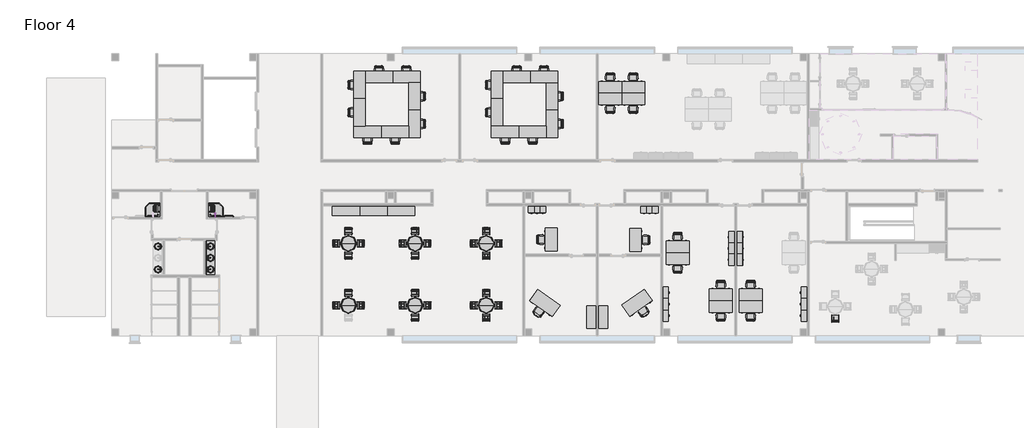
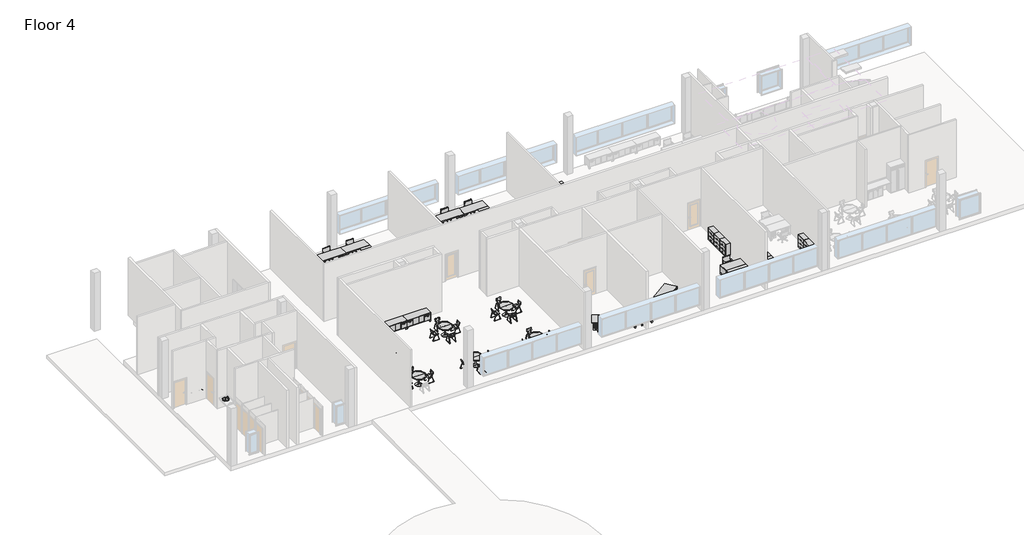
# One storey, part 5 of 6: 114 furniture elements, 13 flow terminals.
"""IFC4 building model written with IfcOpenShell, lengths in millimetres."""

from ifc_helpers import new_model, si_unit, origin, place, context, project, spatial, transform, mapped, element, save
from components import grab_rail_horizontal_grab_bar_horizontal_3488bc9b, grab_rail_horizontal_grab_bar_horizontal_f73a8c0c, shower_head_shower_head_3f4786c7, shower_seat_e35f25db, shower_seat_bb0cd458, shower_tray_2_floor_shower_tray_997da0d4, shower_tray_2_floor_shower_tray_7a1f724c, sink_vanity_round_basin_6ecf7a68, furniture_552c1472, furniture_48aa8ab9, furniture_4ebe9c9a, furniture_5292397e, chair_executive_chair_executive_8d69e98c, chair_executive_chair_executive_a5be4872, chair_stacking_chair_stacking_76f41a28, chair_task_arms_chair_task_arms_fa5a08ef, chair_task_arms_chair_task_arms_3c69ee15, furniture_0f0bb7e9, furniture_a9e97cbc, furniture_d4af3f8d, furniture_f1eb905c, furniture_e30ff25b, furniture_33f25304, furniture_65204735, plumbing_fixtures_counter_top_w_sinks_2400x600x850mm_820859b4, furniture_a5b052b6, furniture_77f0a01d

model = new_model("IFC4")

# Units and contexts
model_context = context("Model", 3, world=origin())
ifc_project = project(units=[si_unit("LENGTHUNIT", "METRE", prefix="MILLI")], contexts=[model_context])

# Site, building, storey
site = spatial("IfcSite", under=ifc_project)
building = spatial("IfcBuilding", under=site)
storey = spatial("IfcBuildingStorey", under=building, Name="Floor 4", Elevation=14935.2)

# Flow terminals
placement = place(None, origin())
grab_rail_horizontal_grab_bar_horizontal_shape = grab_rail_horizontal_grab_bar_horizontal_3488bc9b(model_context)
element("IfcFlowTerminal", 1, ObjectType="Grab Rail - Horizontal : Grab Bar Horizontal", at=placement, inside=storey, context=model_context, shape_type="MappedRepresentation", body=[
    mapped(grab_rail_horizontal_grab_bar_horizontal_shape, transform((3129.9735359, 46520.961889, 14935.2), x_axis=(-1.0, 0.0, 0.0), y_axis=(0.0, -1.0, 0.0), z_axis=(0.0, 0.0, 1.0))),
])
element("IfcFlowTerminal", 2, ObjectType="Grab Rail - Horizontal : Grab Bar Horizontal", at=placement, inside=storey, context=model_context, shape_type="MappedRepresentation", body=[
    mapped(grab_rail_horizontal_grab_bar_horizontal_shape, transform((3939.9735359, 46520.961889, 14935.2), x_axis=(-1.0, 0.0, 0.0), y_axis=(0.0, -1.0, 0.0), z_axis=(0.0, 0.0, 1.0))),
])
grab_rail_horizontal_grab_bar_horizontal_2_shape = grab_rail_horizontal_grab_bar_horizontal_f73a8c0c(model_context)
element("IfcFlowTerminal", 3, ObjectType="Grab Rail - Horizontal : Grab Bar Horizontal", at=placement, inside=storey, context=model_context, shape_type="MappedRepresentation", body=[
    mapped(grab_rail_horizontal_grab_bar_horizontal_2_shape, transform((543.5648689, 46520.961889, 14935.2), x_axis=(1.0, 0.0, 0.0), y_axis=(0.0, 1.0, 0.0), z_axis=(0.0, 0.0, 1.0))),
])
shower_head_shower_head_shape = shower_head_shower_head_3f4786c7(model_context)
element("IfcFlowTerminal", 4, ObjectType="Shower Head : Shower Head", at=placement, inside=storey, context=model_context, shape_type="MappedRepresentation", body=[
    mapped(shower_head_shower_head_shape, transform((3900.7692024, 46520.961889, 14935.2), x_axis=(-1.0, 0.0, 0.0), y_axis=(0.0, -1.0, 0.0), z_axis=(0.0, 0.0, 1.0))),
])
shower_seat_shape = shower_seat_e35f25db(model_context)
element("IfcFlowTerminal", 5, ObjectType="Shower - Disabled  Seat : Shower Seat", at=placement, inside=storey, context=model_context, shape_type="MappedRepresentation", body=[
    mapped(shower_seat_shape, transform((242.9192024, 47086.6956616, 14935.2), x_axis=(0.0, 1.0, 0.0), y_axis=(-1.0, 0.0, 0.0), z_axis=(0.0, 0.0, 1.0))),
])
shower_seat_2_shape = shower_seat_bb0cd458(model_context)
element("IfcFlowTerminal", 6, ObjectType="Shower - Disabled  Seat : Shower Seat", at=placement, inside=storey, context=model_context, shape_type="MappedRepresentation", body=[
    mapped(shower_seat_2_shape, transform((3430.6192024, 47086.6956616, 14935.2), x_axis=(0.0, 1.0, 0.0), y_axis=(-1.0, 0.0, 0.0), z_axis=(0.0, 0.0, 1.0))),
])
shower_tray_2_floor_shower_tray_shape = shower_tray_2_floor_shower_tray_997da0d4(model_context)
element("IfcFlowTerminal", 7, ObjectType="Shower Tray (2) : Floor Shower Tray", at=placement, inside=storey, context=model_context, shape_type="MappedRepresentation", body=[
    mapped(shower_tray_2_floor_shower_tray_shape, transform((3430.6192024, 46520.961889, 14935.2), x_axis=(0.0, -1.0, 0.0), y_axis=(1.0, 0.0, 0.0), z_axis=(0.0, 0.0, 1.0))),
])
shower_tray_2_floor_shower_tray_2_shape = shower_tray_2_floor_shower_tray_7a1f724c(model_context)
element("IfcFlowTerminal", 8, ObjectType="Shower Tray (2) : Floor Shower Tray", at=placement, inside=storey, context=model_context, shape_type="MappedRepresentation", body=[
    mapped(shower_tray_2_floor_shower_tray_2_shape, transform((242.9192024, 46520.961889, 14935.2), x_axis=(0.0, -1.0, 0.0), y_axis=(1.0, 0.0, 0.0), z_axis=(0.0, 0.0, 1.0))),
])
sink_vanity_round_basin_shape = sink_vanity_round_basin_6ecf7a68(model_context)
element("IfcFlowTerminal", 9, ObjectType="Sink - Vanity - Round : Basin", at=placement, inside=storey, context=model_context, shape_type="MappedRepresentation", body=[
    mapped(sink_vanity_round_basin_shape, transform((10.1514839, 44660.1636296, 15011.4), x_axis=(0.0, -1.0, 0.0), y_axis=(1.0, 0.0, 0.0), z_axis=(0.0, 0.0, 1.0))),
])
element("IfcFlowTerminal", 10, ObjectType="Sink - Vanity - Round : Basin", at=placement, inside=storey, context=model_context, shape_type="MappedRepresentation", body=[
    mapped(sink_vanity_round_basin_shape, transform((10.1514839, 43136.1636296, 15010.6), x_axis=(0.0, -1.0, 0.0), y_axis=(1.0, 0.0, 0.0), z_axis=(0.0, 0.0, 1.0))),
])
element("IfcFlowTerminal", 11, ObjectType="Sink - Vanity - Round : Basin", at=placement, inside=storey, context=model_context, shape_type="MappedRepresentation", body=[
    mapped(sink_vanity_round_basin_shape, transform((3663.3869209, 43704.8601484, 15011.0), x_axis=(0.0, 1.0, 0.0), y_axis=(-1.0, 0.0, 0.0), z_axis=(0.0, 0.0, 1.0))),
])
element("IfcFlowTerminal", 12, ObjectType="Sink - Vanity - Round : Basin", at=placement, inside=storey, context=model_context, shape_type="MappedRepresentation", body=[
    mapped(sink_vanity_round_basin_shape, transform((3663.3869209, 42942.8601484, 15011.4), x_axis=(0.0, 1.0, 0.0), y_axis=(-1.0, 0.0, 0.0), z_axis=(0.0, 0.0, 1.0))),
])
element("IfcFlowTerminal", 13, ObjectType="Sink - Vanity - Round : Basin", at=placement, inside=storey, context=model_context, shape_type="MappedRepresentation", body=[
    mapped(sink_vanity_round_basin_shape, transform((3663.3869209, 44466.8601484, 15010.6), x_axis=(0.0, 1.0, 0.0), y_axis=(-1.0, 0.0, 0.0), z_axis=(0.0, 0.0, 1.0))),
])

# Furniture
furniture_shape = furniture_552c1472(model_context)
element("IfcFurniture", 14, ObjectType="Cabinet-File 3 Drawer : 15\" x 18\"", at=placement, inside=storey, context=model_context, shape_type="MappedRepresentation", body=[
    mapped(furniture_shape, transform((25015.1656494, 47175.7961891, 14935.2), x_axis=(1.0, 0.0, 0.0), y_axis=(0.0, 1.0, 0.0), z_axis=(0.0, 0.0, 1.0))),
])
element("IfcFurniture", 15, ObjectType="Cabinet-File 3 Drawer : 15\" x 18\"", at=placement, inside=storey, context=model_context, shape_type="MappedRepresentation", body=[
    mapped(furniture_shape, transform((25396.1656494, 47175.7961891, 14935.2), x_axis=(1.0, 0.0, 0.0), y_axis=(0.0, 1.0, 0.0), z_axis=(0.0, 0.0, 1.0))),
])
element("IfcFurniture", 16, ObjectType="Cabinet-File 3 Drawer : 15\" x 18\"", at=placement, inside=storey, context=model_context, shape_type="MappedRepresentation", body=[
    mapped(furniture_shape, transform((25777.1656494, 47175.7961891, 14935.2), x_axis=(1.0, 0.0, 0.0), y_axis=(0.0, 1.0, 0.0), z_axis=(0.0, 0.0, 1.0))),
])
furniture_2_shape = furniture_48aa8ab9(model_context)
element("IfcFurniture", 17, ObjectType="Cabinet-File 3 Drawer : 15\" x 18\"", at=placement, inside=storey, context=model_context, shape_type="MappedRepresentation", body=[
    mapped(furniture_2_shape, transform((32994.0745255, 47158.4749357, 14935.2), x_axis=(-1.0, 0.0, 0.0), y_axis=(0.0, -1.0, 0.0), z_axis=(0.0, 0.0, 1.0))),
])
element("IfcFurniture", 18, ObjectType="Cabinet-File 3 Drawer : 15\" x 18\"", at=placement, inside=storey, context=model_context, shape_type="MappedRepresentation", body=[
    mapped(furniture_2_shape, transform((32613.0745255, 47158.4749357, 14935.2), x_axis=(-1.0, 0.0, 0.0), y_axis=(0.0, -1.0, 0.0), z_axis=(0.0, 0.0, 1.0))),
])
element("IfcFurniture", 19, ObjectType="Cabinet-File 3 Drawer : 15\" x 18\"", at=placement, inside=storey, context=model_context, shape_type="MappedRepresentation", body=[
    mapped(furniture_2_shape, transform((32232.0745255, 47158.4749357, 14935.2), x_axis=(-1.0, 0.0, 0.0), y_axis=(0.0, -1.0, 0.0), z_axis=(0.0, 0.0, 1.0))),
])
furniture_3_shape = furniture_4ebe9c9a(model_context)
element("IfcFurniture", 20, ObjectType="Cabinet-File 3 Drawer : 30\" x 15\" Lat.", at=placement, inside=storey, context=model_context, shape_type="MappedRepresentation", body=[
    mapped(furniture_3_shape, transform((33660.5349022, 41618.008336, 14935.2), x_axis=(0.0, 1.0, 0.0), y_axis=(-1.0, 0.0, 0.0), z_axis=(0.0, 0.0, 1.0))),
])
element("IfcFurniture", 21, ObjectType="Cabinet-File 3 Drawer : 30\" x 15\" Lat.", at=placement, inside=storey, context=model_context, shape_type="MappedRepresentation", body=[
    mapped(furniture_3_shape, transform((33660.5349022, 40856.008336, 14935.2), x_axis=(0.0, 1.0, 0.0), y_axis=(-1.0, 0.0, 0.0), z_axis=(0.0, 0.0, 1.0))),
])
element("IfcFurniture", 22, ObjectType="Cabinet-File 3 Drawer : 30\" x 15\" Lat.", at=placement, inside=storey, context=model_context, shape_type="MappedRepresentation", body=[
    mapped(furniture_3_shape, transform((33660.5349022, 40094.008336, 14935.2), x_axis=(0.0, 1.0, 0.0), y_axis=(-1.0, 0.0, 0.0), z_axis=(0.0, 0.0, 1.0))),
])
element("IfcFurniture", 23, ObjectType="Cabinet-File 3 Drawer : 30\" x 15\" Lat.", at=placement, inside=storey, context=model_context, shape_type="MappedRepresentation", body=[
    mapped(furniture_3_shape, transform((38345.3535025, 43540.265442, 14935.2), x_axis=(0.0, -1.0, 0.0), y_axis=(1.0, 0.0, 0.0), z_axis=(0.0, 0.0, 1.0))),
])
element("IfcFurniture", 24, ObjectType="Cabinet-File 3 Drawer : 30\" x 15\" Lat.", at=placement, inside=storey, context=model_context, shape_type="MappedRepresentation", body=[
    mapped(furniture_3_shape, transform((38345.3535025, 44302.265442, 14935.2), x_axis=(0.0, -1.0, 0.0), y_axis=(1.0, 0.0, 0.0), z_axis=(0.0, 0.0, 1.0))),
])
element("IfcFurniture", 25, ObjectType="Cabinet-File 3 Drawer : 30\" x 15\" Lat.", at=placement, inside=storey, context=model_context, shape_type="MappedRepresentation", body=[
    mapped(furniture_3_shape, transform((38345.3535025, 45064.265442, 14935.2), x_axis=(0.0, -1.0, 0.0), y_axis=(1.0, 0.0, 0.0), z_axis=(0.0, 0.0, 1.0))),
])
furniture_4_shape = furniture_5292397e(model_context)
element("IfcFurniture", 26, ObjectType="Cabinet-File 3 Drawer : 30\" x 15\" Lat.", at=placement, inside=storey, context=model_context, shape_type="MappedRepresentation", body=[
    mapped(furniture_4_shape, transform((43139.6035025, 41618.008336, 14935.2), x_axis=(0.0, 1.0, 0.0), y_axis=(-1.0, 0.0, 0.0), z_axis=(0.0, 0.0, 1.0))),
])
element("IfcFurniture", 27, ObjectType="Cabinet-File 3 Drawer : 30\" x 15\" Lat.", at=placement, inside=storey, context=model_context, shape_type="MappedRepresentation", body=[
    mapped(furniture_4_shape, transform((43139.6035025, 40856.008336, 14935.2), x_axis=(0.0, 1.0, 0.0), y_axis=(-1.0, 0.0, 0.0), z_axis=(0.0, 0.0, 1.0))),
])
element("IfcFurniture", 28, ObjectType="Cabinet-File 3 Drawer : 30\" x 15\" Lat.", at=placement, inside=storey, context=model_context, shape_type="MappedRepresentation", body=[
    mapped(furniture_4_shape, transform((43139.6035025, 40094.008336, 14935.2), x_axis=(0.0, 1.0, 0.0), y_axis=(-1.0, 0.0, 0.0), z_axis=(0.0, 0.0, 1.0))),
])
element("IfcFurniture", 29, ObjectType="Cabinet-File 3 Drawer : 30\" x 15\" Lat.", at=placement, inside=storey, context=model_context, shape_type="MappedRepresentation", body=[
    mapped(furniture_4_shape, transform((38581.7849022, 43540.265442, 14935.2), x_axis=(0.0, -1.0, 0.0), y_axis=(1.0, 0.0, 0.0), z_axis=(0.0, 0.0, 1.0))),
])
element("IfcFurniture", 30, ObjectType="Cabinet-File 3 Drawer : 30\" x 15\" Lat.", at=placement, inside=storey, context=model_context, shape_type="MappedRepresentation", body=[
    mapped(furniture_4_shape, transform((38581.7849022, 44302.265442, 14935.2), x_axis=(0.0, -1.0, 0.0), y_axis=(1.0, 0.0, 0.0), z_axis=(0.0, 0.0, 1.0))),
])
element("IfcFurniture", 31, ObjectType="Cabinet-File 3 Drawer : 30\" x 15\" Lat.", at=placement, inside=storey, context=model_context, shape_type="MappedRepresentation", body=[
    mapped(furniture_4_shape, transform((38581.7849022, 45064.265442, 14935.2), x_axis=(0.0, -1.0, 0.0), y_axis=(1.0, 0.0, 0.0), z_axis=(0.0, 0.0, 1.0))),
])
chair_executive_chair_executive_shape = chair_executive_chair_executive_8d69e98c(model_context)
element("IfcFurniture", 32, ObjectType="Chair-Executive : Chair-Executive", at=placement, inside=storey, context=model_context, shape_type="MappedRepresentation", body=[
    mapped(chair_executive_chair_executive_shape, transform((25274.595015, 40313.6122918, 14935.2), x_axis=(0.819152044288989, -0.57357643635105, 0.0), y_axis=(0.57357643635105, 0.819152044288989, 0.0), z_axis=(0.0, 0.0, 1.0))),
])
chair_executive_chair_executive_2_shape = chair_executive_chair_executive_a5be4872(model_context)
element("IfcFurniture", 33, ObjectType="Chair-Executive : Chair-Executive", at=placement, inside=storey, context=model_context, shape_type="MappedRepresentation", body=[
    mapped(chair_executive_chair_executive_2_shape, transform((32438.2785136, 40325.0659707, 14935.2), x_axis=(-0.819152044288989, -0.57357643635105, 0.0), y_axis=(0.57357643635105, -0.819152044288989, 0.0), z_axis=(0.0, 0.0, 1.0))),
])
chair_stacking_chair_stacking_shape = chair_stacking_chair_stacking_76f41a28(model_context)
element("IfcFurniture", 34, ObjectType="Chair-Stacking : Chair-Stacking", at=placement, inside=storey, context=model_context, shape_type="MappedRepresentation", body=[
    mapped(chair_stacking_chair_stacking_shape, transform((45252.5467451, 39653.9804254, 14935.2), x_axis=(1.0, 0.0, 0.0), y_axis=(0.0, 1.0, 0.0), z_axis=(0.0, 0.0, 1.0))),
])
element("IfcFurniture", 35, ObjectType="Chair-Stacking : Chair-Stacking", at=placement, inside=storey, context=model_context, shape_type="MappedRepresentation", body=[
    mapped(chair_stacking_chair_stacking_shape, transform((22069.1183827, 43844.9604655, 14935.2), x_axis=(1.0, 0.0, 0.0), y_axis=(0.0, 1.0, 0.0), z_axis=(0.0, 0.0, 1.0))),
])
element("IfcFurniture", 36, ObjectType="Chair-Stacking : Chair-Stacking", at=placement, inside=storey, context=model_context, shape_type="MappedRepresentation", body=[
    mapped(chair_stacking_chair_stacking_shape, transform((22811.8206259, 44945.7610693, 14935.2), x_axis=(0.0, 1.0, 0.0), y_axis=(-1.0, 0.0, 0.0), z_axis=(0.0, 0.0, 1.0))),
])
element("IfcFurniture", 37, ObjectType="Chair-Stacking : Chair-Stacking", at=placement, inside=storey, context=model_context, shape_type="MappedRepresentation", body=[
    mapped(chair_stacking_chair_stacking_shape, transform((21711.020022, 45688.4633126, 14935.2), x_axis=(-1.0, 0.0, 0.0), y_axis=(0.0, -1.0, 0.0), z_axis=(0.0, 0.0, 1.0))),
])
element("IfcFurniture", 38, ObjectType="Chair-Stacking : Chair-Stacking", at=placement, inside=storey, context=model_context, shape_type="MappedRepresentation", body=[
    mapped(chair_stacking_chair_stacking_shape, transform((20968.3177788, 44587.6627087, 14935.2), x_axis=(0.0, -1.0, 0.0), y_axis=(1.0, 0.0, 0.0), z_axis=(0.0, 0.0, 1.0))),
])
element("IfcFurniture", 39, ObjectType="Chair-Stacking : Chair-Stacking", at=placement, inside=storey, context=model_context, shape_type="MappedRepresentation", body=[
    mapped(chair_stacking_chair_stacking_shape, transform((22069.1183827, 39730.1604655, 14935.2), x_axis=(1.0, 0.0, 0.0), y_axis=(0.0, 1.0, 0.0), z_axis=(0.0, 0.0, 1.0))),
])
element("IfcFurniture", 40, ObjectType="Chair-Stacking : Chair-Stacking", at=placement, inside=storey, context=model_context, shape_type="MappedRepresentation", body=[
    mapped(chair_stacking_chair_stacking_shape, transform((22811.8206259, 40830.9610693, 14935.2), x_axis=(0.0, 1.0, 0.0), y_axis=(-1.0, 0.0, 0.0), z_axis=(0.0, 0.0, 1.0))),
])
element("IfcFurniture", 41, ObjectType="Chair-Stacking : Chair-Stacking", at=placement, inside=storey, context=model_context, shape_type="MappedRepresentation", body=[
    mapped(chair_stacking_chair_stacking_shape, transform((21711.020022, 41573.6633126, 14935.2), x_axis=(-1.0, 0.0, 0.0), y_axis=(0.0, -1.0, 0.0), z_axis=(0.0, 0.0, 1.0))),
])
element("IfcFurniture", 42, ObjectType="Chair-Stacking : Chair-Stacking", at=placement, inside=storey, context=model_context, shape_type="MappedRepresentation", body=[
    mapped(chair_stacking_chair_stacking_shape, transform((20968.3177788, 40472.8627087, 14935.2), x_axis=(0.0, -1.0, 0.0), y_axis=(1.0, 0.0, 0.0), z_axis=(0.0, 0.0, 1.0))),
])
element("IfcFurniture", 43, ObjectType="Chair-Stacking : Chair-Stacking", at=placement, inside=storey, context=model_context, shape_type="MappedRepresentation", body=[
    mapped(chair_stacking_chair_stacking_shape, transform((17344.7183827, 39730.1604655, 14935.2), x_axis=(1.0, 0.0, 0.0), y_axis=(0.0, 1.0, 0.0), z_axis=(0.0, 0.0, 1.0))),
])
element("IfcFurniture", 44, ObjectType="Chair-Stacking : Chair-Stacking", at=placement, inside=storey, context=model_context, shape_type="MappedRepresentation", body=[
    mapped(chair_stacking_chair_stacking_shape, transform((18087.4206259, 40830.9610693, 14935.2), x_axis=(0.0, 1.0, 0.0), y_axis=(-1.0, 0.0, 0.0), z_axis=(0.0, 0.0, 1.0))),
])
element("IfcFurniture", 45, ObjectType="Chair-Stacking : Chair-Stacking", at=placement, inside=storey, context=model_context, shape_type="MappedRepresentation", body=[
    mapped(chair_stacking_chair_stacking_shape, transform((16986.620022, 41573.6633126, 14935.2), x_axis=(-1.0, 0.0, 0.0), y_axis=(0.0, -1.0, 0.0), z_axis=(0.0, 0.0, 1.0))),
])
element("IfcFurniture", 46, ObjectType="Chair-Stacking : Chair-Stacking", at=placement, inside=storey, context=model_context, shape_type="MappedRepresentation", body=[
    mapped(chair_stacking_chair_stacking_shape, transform((16243.9177788, 40472.8627087, 14935.2), x_axis=(0.0, -1.0, 0.0), y_axis=(1.0, 0.0, 0.0), z_axis=(0.0, 0.0, 1.0))),
])
element("IfcFurniture", 47, ObjectType="Chair-Stacking : Chair-Stacking", at=placement, inside=storey, context=model_context, shape_type="MappedRepresentation", body=[
    mapped(chair_stacking_chair_stacking_shape, transform((13667.8206259, 40830.9610693, 14935.2), x_axis=(0.0, 1.0, 0.0), y_axis=(-1.0, 0.0, 0.0), z_axis=(0.0, 0.0, 1.0))),
])
element("IfcFurniture", 48, ObjectType="Chair-Stacking : Chair-Stacking", at=placement, inside=storey, context=model_context, shape_type="MappedRepresentation", body=[
    mapped(chair_stacking_chair_stacking_shape, transform((12567.020022, 41573.6633126, 14935.2), x_axis=(-1.0, 0.0, 0.0), y_axis=(0.0, -1.0, 0.0), z_axis=(0.0, 0.0, 1.0))),
])
element("IfcFurniture", 49, ObjectType="Chair-Stacking : Chair-Stacking", at=placement, inside=storey, context=model_context, shape_type="MappedRepresentation", body=[
    mapped(chair_stacking_chair_stacking_shape, transform((11824.3177788, 40472.8627087, 14935.2), x_axis=(0.0, -1.0, 0.0), y_axis=(1.0, 0.0, 0.0), z_axis=(0.0, 0.0, 1.0))),
])
element("IfcFurniture", 50, ObjectType="Chair-Stacking : Chair-Stacking", at=placement, inside=storey, context=model_context, shape_type="MappedRepresentation", body=[
    mapped(chair_stacking_chair_stacking_shape, transform((12925.1183827, 43844.9604655, 14935.2), x_axis=(1.0, 0.0, 0.0), y_axis=(0.0, 1.0, 0.0), z_axis=(0.0, 0.0, 1.0))),
])
element("IfcFurniture", 51, ObjectType="Chair-Stacking : Chair-Stacking", at=placement, inside=storey, context=model_context, shape_type="MappedRepresentation", body=[
    mapped(chair_stacking_chair_stacking_shape, transform((13667.8206259, 44945.7610693, 14935.2), x_axis=(0.0, 1.0, 0.0), y_axis=(-1.0, 0.0, 0.0), z_axis=(0.0, 0.0, 1.0))),
])
element("IfcFurniture", 52, ObjectType="Chair-Stacking : Chair-Stacking", at=placement, inside=storey, context=model_context, shape_type="MappedRepresentation", body=[
    mapped(chair_stacking_chair_stacking_shape, transform((12567.020022, 45688.4633126, 14935.2), x_axis=(-1.0, 0.0, 0.0), y_axis=(0.0, -1.0, 0.0), z_axis=(0.0, 0.0, 1.0))),
])
element("IfcFurniture", 53, ObjectType="Chair-Stacking : Chair-Stacking", at=placement, inside=storey, context=model_context, shape_type="MappedRepresentation", body=[
    mapped(chair_stacking_chair_stacking_shape, transform((11824.3177788, 44587.6627087, 14935.2), x_axis=(0.0, -1.0, 0.0), y_axis=(1.0, 0.0, 0.0), z_axis=(0.0, 0.0, 1.0))),
])
element("IfcFurniture", 54, ObjectType="Chair-Stacking : Chair-Stacking", at=placement, inside=storey, context=model_context, shape_type="MappedRepresentation", body=[
    mapped(chair_stacking_chair_stacking_shape, transform((17344.7183827, 43844.9604655, 14935.2), x_axis=(1.0, 0.0, 0.0), y_axis=(0.0, 1.0, 0.0), z_axis=(0.0, 0.0, 1.0))),
])
element("IfcFurniture", 55, ObjectType="Chair-Stacking : Chair-Stacking", at=placement, inside=storey, context=model_context, shape_type="MappedRepresentation", body=[
    mapped(chair_stacking_chair_stacking_shape, transform((18087.4206259, 44945.7610693, 14935.2), x_axis=(0.0, 1.0, 0.0), y_axis=(-1.0, 0.0, 0.0), z_axis=(0.0, 0.0, 1.0))),
])
element("IfcFurniture", 56, ObjectType="Chair-Stacking : Chair-Stacking", at=placement, inside=storey, context=model_context, shape_type="MappedRepresentation", body=[
    mapped(chair_stacking_chair_stacking_shape, transform((16986.620022, 45688.4633126, 14935.2), x_axis=(-1.0, 0.0, 0.0), y_axis=(0.0, -1.0, 0.0), z_axis=(0.0, 0.0, 1.0))),
])
element("IfcFurniture", 57, ObjectType="Chair-Stacking : Chair-Stacking", at=placement, inside=storey, context=model_context, shape_type="MappedRepresentation", body=[
    mapped(chair_stacking_chair_stacking_shape, transform((16243.9177788, 44587.6627087, 14935.2), x_axis=(0.0, -1.0, 0.0), y_axis=(1.0, 0.0, 0.0), z_axis=(0.0, 0.0, 1.0))),
])
chair_task_arms_chair_task_arms_shape = chair_task_arms_chair_task_arms_fa5a08ef(model_context)
element("IfcFurniture", 58, ObjectType="Chair-Task Arms : Chair-Task Arms", at=placement, inside=storey, context=model_context, shape_type="MappedRepresentation", body=[
    mapped(chair_task_arms_chair_task_arms_shape, transform((25509.6733007, 45161.7027087, 14935.2), x_axis=(0.0, -1.0, 0.0), y_axis=(1.0, 0.0, 0.0), z_axis=(0.0, 0.0, 1.0))),
])
element("IfcFurniture", 59, ObjectType="Chair-Task Arms : Chair-Task Arms", at=placement, inside=storey, context=model_context, shape_type="MappedRepresentation", body=[
    mapped(chair_task_arms_chair_task_arms_shape, transform((13867.7188499, 51632.7534874, 14935.2), x_axis=(1.0, 0.0, 0.0), y_axis=(0.0, 1.0, 0.0), z_axis=(0.0, 0.0, 1.0))),
])
element("IfcFurniture", 60, ObjectType="Chair-Task Arms : Chair-Task Arms", at=placement, inside=storey, context=model_context, shape_type="MappedRepresentation", body=[
    mapped(chair_task_arms_chair_task_arms_shape, transform((15696.5188499, 51632.7534874, 14935.2), x_axis=(1.0, 0.0, 0.0), y_axis=(0.0, 1.0, 0.0), z_axis=(0.0, 0.0, 1.0))),
])
element("IfcFurniture", 61, ObjectType="Chair-Task Arms : Chair-Task Arms", at=placement, inside=storey, context=model_context, shape_type="MappedRepresentation", body=[
    mapped(chair_task_arms_chair_task_arms_shape, transform((17603.715104, 52572.8924709, 14935.2), x_axis=(0.0, 1.0, 0.0), y_axis=(-1.0, 0.0, 0.0), z_axis=(0.0, 0.0, 1.0))),
])
element("IfcFurniture", 62, ObjectType="Chair-Task Arms : Chair-Task Arms", at=placement, inside=storey, context=model_context, shape_type="MappedRepresentation", body=[
    mapped(chair_task_arms_chair_task_arms_shape, transform((17603.715104, 54401.6924709, 14935.2), x_axis=(0.0, 1.0, 0.0), y_axis=(-1.0, 0.0, 0.0), z_axis=(0.0, 0.0, 1.0))),
])
element("IfcFurniture", 63, ObjectType="Chair-Task Arms : Chair-Task Arms", at=placement, inside=storey, context=model_context, shape_type="MappedRepresentation", body=[
    mapped(chair_task_arms_chair_task_arms_shape, transform((16727.8004892, 56317.2577906, 14935.2), x_axis=(-1.0, 0.0, 0.0), y_axis=(0.0, -1.0, 0.0), z_axis=(0.0, 0.0, 1.0))),
])
element("IfcFurniture", 64, ObjectType="Chair-Task Arms : Chair-Task Arms", at=placement, inside=storey, context=model_context, shape_type="MappedRepresentation", body=[
    mapped(chair_task_arms_chair_task_arms_shape, transform((14911.7004892, 56317.2577906, 14935.2), x_axis=(-1.0, 0.0, 0.0), y_axis=(0.0, -1.0, 0.0), z_axis=(0.0, 0.0, 1.0))),
])
element("IfcFurniture", 65, ObjectType="Chair-Task Arms : Chair-Task Arms", at=placement, inside=storey, context=model_context, shape_type="MappedRepresentation", body=[
    mapped(chair_task_arms_chair_task_arms_shape, transform((12968.4233007, 55445.6741102, 14935.2), x_axis=(0.0, -1.0, 0.0), y_axis=(1.0, 0.0, 0.0), z_axis=(0.0, 0.0, 1.0))),
])
element("IfcFurniture", 66, ObjectType="Chair-Task Arms : Chair-Task Arms", at=placement, inside=storey, context=model_context, shape_type="MappedRepresentation", body=[
    mapped(chair_task_arms_chair_task_arms_shape, transform((12968.4233007, 53616.8741102, 14935.2), x_axis=(0.0, -1.0, 0.0), y_axis=(1.0, 0.0, 0.0), z_axis=(0.0, 0.0, 1.0))),
])
element("IfcFurniture", 67, ObjectType="Chair-Task Arms : Chair-Task Arms", at=placement, inside=storey, context=model_context, shape_type="MappedRepresentation", body=[
    mapped(chair_task_arms_chair_task_arms_shape, transform((23011.7188499, 51632.7534874, 14935.2), x_axis=(1.0, 0.0, 0.0), y_axis=(0.0, 1.0, 0.0), z_axis=(0.0, 0.0, 1.0))),
])
element("IfcFurniture", 68, ObjectType="Chair-Task Arms : Chair-Task Arms", at=placement, inside=storey, context=model_context, shape_type="MappedRepresentation", body=[
    mapped(chair_task_arms_chair_task_arms_shape, transform((24840.5188499, 51632.7534874, 14935.2), x_axis=(1.0, 0.0, 0.0), y_axis=(0.0, 1.0, 0.0), z_axis=(0.0, 0.0, 1.0))),
])
element("IfcFurniture", 69, ObjectType="Chair-Task Arms : Chair-Task Arms", at=placement, inside=storey, context=model_context, shape_type="MappedRepresentation", body=[
    mapped(chair_task_arms_chair_task_arms_shape, transform((26747.715104, 52572.8924709, 14935.2), x_axis=(0.0, 1.0, 0.0), y_axis=(-1.0, 0.0, 0.0), z_axis=(0.0, 0.0, 1.0))),
])
element("IfcFurniture", 70, ObjectType="Chair-Task Arms : Chair-Task Arms", at=placement, inside=storey, context=model_context, shape_type="MappedRepresentation", body=[
    mapped(chair_task_arms_chair_task_arms_shape, transform((26747.715104, 54401.6924709, 14935.2), x_axis=(0.0, 1.0, 0.0), y_axis=(-1.0, 0.0, 0.0), z_axis=(0.0, 0.0, 1.0))),
])
element("IfcFurniture", 71, ObjectType="Chair-Task Arms : Chair-Task Arms", at=placement, inside=storey, context=model_context, shape_type="MappedRepresentation", body=[
    mapped(chair_task_arms_chair_task_arms_shape, transform((25871.8004892, 56317.2577906, 14935.2), x_axis=(-1.0, 0.0, 0.0), y_axis=(0.0, -1.0, 0.0), z_axis=(0.0, 0.0, 1.0))),
])
element("IfcFurniture", 72, ObjectType="Chair-Task Arms : Chair-Task Arms", at=placement, inside=storey, context=model_context, shape_type="MappedRepresentation", body=[
    mapped(chair_task_arms_chair_task_arms_shape, transform((24055.7004892, 56317.2577906, 14935.2), x_axis=(-1.0, 0.0, 0.0), y_axis=(0.0, -1.0, 0.0), z_axis=(0.0, 0.0, 1.0))),
])
element("IfcFurniture", 73, ObjectType="Chair-Task Arms : Chair-Task Arms", at=placement, inside=storey, context=model_context, shape_type="MappedRepresentation", body=[
    mapped(chair_task_arms_chair_task_arms_shape, transform((22112.4233007, 55445.6741102, 14935.2), x_axis=(0.0, -1.0, 0.0), y_axis=(1.0, 0.0, 0.0), z_axis=(0.0, 0.0, 1.0))),
])
element("IfcFurniture", 74, ObjectType="Chair-Task Arms : Chair-Task Arms", at=placement, inside=storey, context=model_context, shape_type="MappedRepresentation", body=[
    mapped(chair_task_arms_chair_task_arms_shape, transform((22112.4233007, 53616.8741102, 14935.2), x_axis=(0.0, -1.0, 0.0), y_axis=(1.0, 0.0, 0.0), z_axis=(0.0, 0.0, 1.0))),
])
element("IfcFurniture", 75, ObjectType="Chair-Task Arms : Chair-Task Arms", at=placement, inside=storey, context=model_context, shape_type="MappedRepresentation", body=[
    mapped(chair_task_arms_chair_task_arms_shape, transform((34461.7783827, 43058.6659874, 14935.2), x_axis=(1.0, 0.0, 0.0), y_axis=(0.0, 1.0, 0.0), z_axis=(0.0, 0.0, 1.0))),
])
element("IfcFurniture", 76, ObjectType="Chair-Task Arms : Chair-Task Arms", at=placement, inside=storey, context=model_context, shape_type="MappedRepresentation", body=[
    mapped(chair_task_arms_chair_task_arms_shape, transform((37331.9783827, 39870.9859473, 14935.2), x_axis=(1.0, 0.0, 0.0), y_axis=(0.0, 1.0, 0.0), z_axis=(0.0, 0.0, 1.0))),
])
element("IfcFurniture", 77, ObjectType="Chair-Task Arms : Chair-Task Arms", at=placement, inside=storey, context=model_context, shape_type="MappedRepresentation", body=[
    mapped(chair_task_arms_chair_task_arms_shape, transform((39595.160022, 42042.4777506, 14935.2), x_axis=(-1.0, 0.0, 0.0), y_axis=(0.0, -1.0, 0.0), z_axis=(0.0, 0.0, 1.0))),
])
element("IfcFurniture", 78, ObjectType="Chair-Task Arms : Chair-Task Arms", at=placement, inside=storey, context=model_context, shape_type="MappedRepresentation", body=[
    mapped(chair_task_arms_chair_task_arms_shape, transform((31509.0283827, 53667.1777354, 14935.2), x_axis=(1.0, 0.0, 0.0), y_axis=(0.0, 1.0, 0.0), z_axis=(0.0, 0.0, 1.0))),
])
element("IfcFurniture", 79, ObjectType="Chair-Task Arms : Chair-Task Arms", at=placement, inside=storey, context=model_context, shape_type="MappedRepresentation", body=[
    mapped(chair_task_arms_chair_task_arms_shape, transform((29985.0283827, 53667.1777354, 14935.2), x_axis=(1.0, 0.0, 0.0), y_axis=(0.0, 1.0, 0.0), z_axis=(0.0, 0.0, 1.0))),
])
chair_task_arms_chair_task_arms_2_shape = chair_task_arms_chair_task_arms_3c69ee15(model_context)
element("IfcFurniture", 80, ObjectType="Chair-Task Arms : Chair-Task Arms", at=placement, inside=storey, context=model_context, shape_type="MappedRepresentation", body=[
    mapped(chair_task_arms_chair_task_arms_2_shape, transform((32499.5668742, 45144.3814552, 14935.2), x_axis=(0.0, -1.0, 0.0), y_axis=(1.0, 0.0, 0.0), z_axis=(0.0, 0.0, 1.0))),
])
element("IfcFurniture", 81, ObjectType="Chair-Task Arms : Chair-Task Arms", at=placement, inside=storey, context=model_context, shape_type="MappedRepresentation", body=[
    mapped(chair_task_arms_chair_task_arms_2_shape, transform((34461.7783827, 45230.1577906, 14935.2), x_axis=(1.0, 0.0, 0.0), y_axis=(0.0, 1.0, 0.0), z_axis=(0.0, 0.0, 1.0))),
])
element("IfcFurniture", 82, ObjectType="Chair-Task Arms : Chair-Task Arms", at=placement, inside=storey, context=model_context, shape_type="MappedRepresentation", body=[
    mapped(chair_task_arms_chair_task_arms_2_shape, transform((37331.9783827, 42042.4777506, 14935.2), x_axis=(1.0, 0.0, 0.0), y_axis=(0.0, 1.0, 0.0), z_axis=(0.0, 0.0, 1.0))),
])
element("IfcFurniture", 83, ObjectType="Chair-Task Arms : Chair-Task Arms", at=placement, inside=storey, context=model_context, shape_type="MappedRepresentation", body=[
    mapped(chair_task_arms_chair_task_arms_2_shape, transform((39595.160022, 39870.9859473, 14935.2), x_axis=(-1.0, 0.0, 0.0), y_axis=(0.0, -1.0, 0.0), z_axis=(0.0, 0.0, 1.0))),
])
element("IfcFurniture", 84, ObjectType="Chair-Task Arms : Chair-Task Arms", at=placement, inside=storey, context=model_context, shape_type="MappedRepresentation", body=[
    mapped(chair_task_arms_chair_task_arms_2_shape, transform((31509.0283827, 55838.6695387, 14935.2), x_axis=(1.0, 0.0, 0.0), y_axis=(0.0, 1.0, 0.0), z_axis=(0.0, 0.0, 1.0))),
])
element("IfcFurniture", 85, ObjectType="Chair-Task Arms : Chair-Task Arms", at=placement, inside=storey, context=model_context, shape_type="MappedRepresentation", body=[
    mapped(chair_task_arms_chair_task_arms_2_shape, transform((29985.0283827, 55838.6695387, 14935.2), x_axis=(1.0, 0.0, 0.0), y_axis=(0.0, 1.0, 0.0), z_axis=(0.0, 0.0, 1.0))),
])
furniture_5_shape = furniture_0f0bb7e9(model_context)
element("IfcFurniture", 86, ObjectType="Credenza : 60\" x 24\"", at=placement, inside=storey, context=model_context, shape_type="MappedRepresentation", body=[
    mapped(furniture_5_shape, transform((29647.9995302, 39804.9676267, 14935.2), x_axis=(0.0, 1.0, 0.0), y_axis=(-1.0, 0.0, 0.0), z_axis=(0.0, 0.0, 1.0))),
])
furniture_6_shape = furniture_a9e97cbc(model_context)
element("IfcFurniture", 87, ObjectType="Credenza : 60\" x 24\"", at=placement, inside=storey, context=model_context, shape_type="MappedRepresentation", body=[
    mapped(furniture_6_shape, transform((28889.5388745, 39804.9676267, 14935.2), x_axis=(0.0, 1.0, 0.0), y_axis=(-1.0, 0.0, 0.0), z_axis=(0.0, 0.0, 1.0))),
])
furniture_7_shape = furniture_d4af3f8d(model_context)
element("IfcFurniture", 88, ObjectType="Credenza : 72\" x 24\"", at=placement, inside=storey, context=model_context, shape_type="MappedRepresentation", body=[
    mapped(furniture_7_shape, transform((16166.2867355, 46952.8815611, 14935.2), x_axis=(1.0, 0.0, 0.0), y_axis=(0.0, 1.0, 0.0), z_axis=(0.0, 0.0, 1.0))),
])
element("IfcFurniture", 89, ObjectType="Credenza : 72\" x 24\"", at=placement, inside=storey, context=model_context, shape_type="MappedRepresentation", body=[
    mapped(furniture_7_shape, transform((14337.4867355, 46952.8815611, 14935.2), x_axis=(1.0, 0.0, 0.0), y_axis=(0.0, 1.0, 0.0), z_axis=(0.0, 0.0, 1.0))),
])
element("IfcFurniture", 90, ObjectType="Credenza : 72\" x 24\"", at=placement, inside=storey, context=model_context, shape_type="MappedRepresentation", body=[
    mapped(furniture_7_shape, transform((12508.6867355, 46952.8815611, 14935.2), x_axis=(1.0, 0.0, 0.0), y_axis=(0.0, 1.0, 0.0), z_axis=(0.0, 0.0, 1.0))),
])
furniture_8_shape = furniture_f1eb905c(model_context)
element("IfcFurniture", 91, ObjectType="Desk : 60\" x 30\"", at=placement, inside=storey, context=model_context, shape_type="MappedRepresentation", body=[
    mapped(furniture_8_shape, transform((25833.4192024, 45782.711889, 14935.2), x_axis=(0.0, -1.0, 0.0), y_axis=(1.0, 0.0, 0.0), z_axis=(0.0, 0.0, 1.0))),
])
element("IfcFurniture", 92, ObjectType="Desk : 60\" x 30\"", at=placement, inside=storey, context=model_context, shape_type="MappedRepresentation", body=[
    mapped(furniture_8_shape, transform((33840.7692024, 43382.411889, 14935.2), x_axis=(1.0, 0.0, 0.0), y_axis=(0.0, 1.0, 0.0), z_axis=(0.0, 0.0, 1.0))),
])
element("IfcFurniture", 93, ObjectType="Desk : 60\" x 30\"", at=placement, inside=storey, context=model_context, shape_type="MappedRepresentation", body=[
    mapped(furniture_8_shape, transform((36710.9692024, 40194.7318489, 14935.2), x_axis=(1.0, 0.0, 0.0), y_axis=(0.0, 1.0, 0.0), z_axis=(0.0, 0.0, 1.0))),
])
element("IfcFurniture", 94, ObjectType="Desk : 60\" x 30\"", at=placement, inside=storey, context=model_context, shape_type="MappedRepresentation", body=[
    mapped(furniture_8_shape, transform((40216.1692024, 41718.7318489, 14935.2), x_axis=(-1.0, 0.0, 0.0), y_axis=(0.0, -1.0, 0.0), z_axis=(0.0, 0.0, 1.0))),
])
element("IfcFurniture", 95, ObjectType="Desk : 60\" x 30\"", at=placement, inside=storey, context=model_context, shape_type="MappedRepresentation", body=[
    mapped(furniture_8_shape, transform((30888.0192024, 53990.9236371, 14935.2), x_axis=(1.0, 0.0, 0.0), y_axis=(0.0, 1.0, 0.0), z_axis=(0.0, 0.0, 1.0))),
])
element("IfcFurniture", 96, ObjectType="Desk : 60\" x 30\"", at=placement, inside=storey, context=model_context, shape_type="MappedRepresentation", body=[
    mapped(furniture_8_shape, transform((29364.0192024, 53990.9236371, 14935.2), x_axis=(1.0, 0.0, 0.0), y_axis=(0.0, 1.0, 0.0), z_axis=(0.0, 0.0, 1.0))),
])
furniture_9_shape = furniture_e30ff25b(model_context)
element("IfcFurniture", 97, ObjectType="Desk : 60\" x 30\"", at=placement, inside=storey, context=model_context, shape_type="MappedRepresentation", body=[
    mapped(furniture_9_shape, transform((32175.8209726, 45765.3906356, 14935.2), x_axis=(0.0, -1.0, 0.0), y_axis=(1.0, 0.0, 0.0), z_axis=(0.0, 0.0, 1.0))),
])
element("IfcFurniture", 98, ObjectType="Desk : 60\" x 30\"", at=placement, inside=storey, context=model_context, shape_type="MappedRepresentation", body=[
    mapped(furniture_9_shape, transform((33840.7692024, 44906.411889, 14935.2), x_axis=(1.0, 0.0, 0.0), y_axis=(0.0, 1.0, 0.0), z_axis=(0.0, 0.0, 1.0))),
])
element("IfcFurniture", 99, ObjectType="Desk : 60\" x 30\"", at=placement, inside=storey, context=model_context, shape_type="MappedRepresentation", body=[
    mapped(furniture_9_shape, transform((36710.9692024, 41718.7318489, 14935.2), x_axis=(1.0, 0.0, 0.0), y_axis=(0.0, 1.0, 0.0), z_axis=(0.0, 0.0, 1.0))),
])
element("IfcFurniture", 100, ObjectType="Desk : 60\" x 30\"", at=placement, inside=storey, context=model_context, shape_type="MappedRepresentation", body=[
    mapped(furniture_9_shape, transform((40216.1692024, 40194.7318489, 14935.2), x_axis=(-1.0, 0.0, 0.0), y_axis=(0.0, -1.0, 0.0), z_axis=(0.0, 0.0, 1.0))),
])
element("IfcFurniture", 101, ObjectType="Desk : 60\" x 30\"", at=placement, inside=storey, context=model_context, shape_type="MappedRepresentation", body=[
    mapped(furniture_9_shape, transform((30888.0192024, 55514.9236371, 14935.2), x_axis=(1.0, 0.0, 0.0), y_axis=(0.0, 1.0, 0.0), z_axis=(0.0, 0.0, 1.0))),
])
element("IfcFurniture", 102, ObjectType="Desk : 60\" x 30\"", at=placement, inside=storey, context=model_context, shape_type="MappedRepresentation", body=[
    mapped(furniture_9_shape, transform((29364.0192024, 55514.9236371, 14935.2), x_axis=(1.0, 0.0, 0.0), y_axis=(0.0, 1.0, 0.0), z_axis=(0.0, 0.0, 1.0))),
])
furniture_10_shape = furniture_33f25304(model_context)
element("IfcFurniture", 103, ObjectType="Desk : 72\" x 36\"", at=placement, inside=storey, context=model_context, shape_type="MappedRepresentation", body=[
    mapped(furniture_10_shape, transform((24951.5870959, 40935.0056416, 14935.2), x_axis=(0.8191520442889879, -0.5735764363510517, 0.0), y_axis=(0.5735764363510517, 0.8191520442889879, 0.0), z_axis=(0.0, 0.0, 1.0))),
])
furniture_11_shape = furniture_65204735(model_context)
element("IfcFurniture", 104, ObjectType="Desk : 72\" x 36\"", at=placement, inside=storey, context=model_context, shape_type="MappedRepresentation", body=[
    mapped(furniture_11_shape, transform((32761.2864327, 40946.4593204, 14935.2), x_axis=(-0.8191520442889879, -0.5735764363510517, 0.0), y_axis=(0.5735764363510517, -0.8191520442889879, 0.0), z_axis=(0.0, 0.0, 1.0))),
])
plumbing_fixtures_counter_top_w_sinks_2400x600x850mm_shape = plumbing_fixtures_counter_top_w_sinks_2400x600x850mm_820859b4(model_context)
element("IfcFurniture", 105, ObjectType="Plumbing_Fixtures_Counter_Top_w-Sinks : 2400x600x850mm", at=placement, inside=storey, context=model_context, shape_type="MappedRepresentation", body=[
    mapped(plumbing_fixtures_counter_top_w_sinks_2400x600x850mm_shape, transform((3208.3692024, 43828.4015852, 14935.2), x_axis=(0.0, -1.0, 0.0), y_axis=(1.0, 0.0, 0.0), z_axis=(0.0, 0.0, 1.0))),
])
furniture_12_shape = furniture_a5b052b6(model_context)
element("IfcFurniture", 106, ObjectType="Table-Rectangular : 72\" x 30\"", at=placement, inside=storey, context=model_context, shape_type="MappedRepresentation", body=[
    mapped(furniture_12_shape, transform((14770.7096695, 55838.0832906, 14935.2), x_axis=(1.0, 0.0, 0.0), y_axis=(0.0, 1.0, 0.0), z_axis=(0.0, 0.0, 1.0))),
])
element("IfcFurniture", 107, ObjectType="Table-Rectangular : 72\" x 30\"", at=placement, inside=storey, context=model_context, shape_type="MappedRepresentation", body=[
    mapped(furniture_12_shape, transform((16586.8096695, 55838.0832906, 14935.2), x_axis=(1.0, 0.0, 0.0), y_axis=(0.0, 1.0, 0.0), z_axis=(0.0, 0.0, 1.0))),
])
element("IfcFurniture", 108, ObjectType="Table-Rectangular : 72\" x 30\"", at=placement, inside=storey, context=model_context, shape_type="MappedRepresentation", body=[
    mapped(furniture_12_shape, transform((13475.3096695, 55304.6832906, 14935.2), x_axis=(0.0, 1.0, 0.0), y_axis=(-1.0, 0.0, 0.0), z_axis=(0.0, 0.0, 1.0))),
])
element("IfcFurniture", 109, ObjectType="Table-Rectangular : 72\" x 30\"", at=placement, inside=storey, context=model_context, shape_type="MappedRepresentation", body=[
    mapped(furniture_12_shape, transform((13475.3096695, 53475.8832906, 14935.2), x_axis=(0.0, 1.0, 0.0), y_axis=(-1.0, 0.0, 0.0), z_axis=(0.0, 0.0, 1.0))),
])
element("IfcFurniture", 110, ObjectType="Table-Rectangular : 72\" x 30\"", at=placement, inside=storey, context=model_context, shape_type="MappedRepresentation", body=[
    mapped(furniture_12_shape, transform((17120.2096695, 54542.6832906, 14935.2), x_axis=(0.0, 1.0, 0.0), y_axis=(-1.0, 0.0, 0.0), z_axis=(0.0, 0.0, 1.0))),
])
element("IfcFurniture", 111, ObjectType="Table-Rectangular : 72\" x 30\"", at=placement, inside=storey, context=model_context, shape_type="MappedRepresentation", body=[
    mapped(furniture_12_shape, transform((17120.2096695, 52713.8832906, 14935.2), x_axis=(0.0, 1.0, 0.0), y_axis=(-1.0, 0.0, 0.0), z_axis=(0.0, 0.0, 1.0))),
])
element("IfcFurniture", 112, ObjectType="Table-Rectangular : 72\" x 30\"", at=placement, inside=storey, context=model_context, shape_type="MappedRepresentation", body=[
    mapped(furniture_12_shape, transform((14008.7096695, 52167.7832906, 14935.2), x_axis=(-1.0, 0.0, 0.0), y_axis=(0.0, -1.0, 0.0), z_axis=(0.0, 0.0, 1.0))),
])
element("IfcFurniture", 113, ObjectType="Table-Rectangular : 72\" x 30\"", at=placement, inside=storey, context=model_context, shape_type="MappedRepresentation", body=[
    mapped(furniture_12_shape, transform((15837.5096695, 52167.7832906, 14935.2), x_axis=(-1.0, 0.0, 0.0), y_axis=(0.0, -1.0, 0.0), z_axis=(0.0, 0.0, 1.0))),
])
element("IfcFurniture", 114, ObjectType="Table-Rectangular : 72\" x 30\"", at=placement, inside=storey, context=model_context, shape_type="MappedRepresentation", body=[
    mapped(furniture_12_shape, transform((23914.7096695, 55838.0832906, 14935.2), x_axis=(1.0, 0.0, 0.0), y_axis=(0.0, 1.0, 0.0), z_axis=(0.0, 0.0, 1.0))),
])
element("IfcFurniture", 115, ObjectType="Table-Rectangular : 72\" x 30\"", at=placement, inside=storey, context=model_context, shape_type="MappedRepresentation", body=[
    mapped(furniture_12_shape, transform((25730.8096695, 55838.0832906, 14935.2), x_axis=(1.0, 0.0, 0.0), y_axis=(0.0, 1.0, 0.0), z_axis=(0.0, 0.0, 1.0))),
])
element("IfcFurniture", 116, ObjectType="Table-Rectangular : 72\" x 30\"", at=placement, inside=storey, context=model_context, shape_type="MappedRepresentation", body=[
    mapped(furniture_12_shape, transform((22619.3096695, 55304.6832906, 14935.2), x_axis=(0.0, 1.0, 0.0), y_axis=(-1.0, 0.0, 0.0), z_axis=(0.0, 0.0, 1.0))),
])
element("IfcFurniture", 117, ObjectType="Table-Rectangular : 72\" x 30\"", at=placement, inside=storey, context=model_context, shape_type="MappedRepresentation", body=[
    mapped(furniture_12_shape, transform((22619.3096695, 53475.8832906, 14935.2), x_axis=(0.0, 1.0, 0.0), y_axis=(-1.0, 0.0, 0.0), z_axis=(0.0, 0.0, 1.0))),
])
element("IfcFurniture", 118, ObjectType="Table-Rectangular : 72\" x 30\"", at=placement, inside=storey, context=model_context, shape_type="MappedRepresentation", body=[
    mapped(furniture_12_shape, transform((26264.2096695, 54542.6832906, 14935.2), x_axis=(0.0, 1.0, 0.0), y_axis=(-1.0, 0.0, 0.0), z_axis=(0.0, 0.0, 1.0))),
])
element("IfcFurniture", 119, ObjectType="Table-Rectangular : 72\" x 30\"", at=placement, inside=storey, context=model_context, shape_type="MappedRepresentation", body=[
    mapped(furniture_12_shape, transform((26264.2096695, 52713.8832906, 14935.2), x_axis=(0.0, 1.0, 0.0), y_axis=(-1.0, 0.0, 0.0), z_axis=(0.0, 0.0, 1.0))),
])
element("IfcFurniture", 120, ObjectType="Table-Rectangular : 72\" x 30\"", at=placement, inside=storey, context=model_context, shape_type="MappedRepresentation", body=[
    mapped(furniture_12_shape, transform((23152.7096695, 52167.7832906, 14935.2), x_axis=(-1.0, 0.0, 0.0), y_axis=(0.0, -1.0, 0.0), z_axis=(0.0, 0.0, 1.0))),
])
element("IfcFurniture", 121, ObjectType="Table-Rectangular : 72\" x 30\"", at=placement, inside=storey, context=model_context, shape_type="MappedRepresentation", body=[
    mapped(furniture_12_shape, transform((24981.5096695, 52167.7832906, 14935.2), x_axis=(-1.0, 0.0, 0.0), y_axis=(0.0, -1.0, 0.0), z_axis=(0.0, 0.0, 1.0))),
])
furniture_13_shape = furniture_77f0a01d(model_context)
element("IfcFurniture", 122, ObjectType="Table-Round : 42\" Diameter", at=placement, inside=storey, context=model_context, shape_type="MappedRepresentation", body=[
    mapped(furniture_13_shape, transform((21890.0692024, 44766.711889, 14935.2), x_axis=(1.0, 0.0, 0.0), y_axis=(0.0, 1.0, 0.0), z_axis=(0.0, 0.0, 1.0))),
])
element("IfcFurniture", 123, ObjectType="Table-Round : 42\" Diameter", at=placement, inside=storey, context=model_context, shape_type="MappedRepresentation", body=[
    mapped(furniture_13_shape, transform((21890.0692024, 40651.911889, 14935.2), x_axis=(1.0, 0.0, 0.0), y_axis=(0.0, 1.0, 0.0), z_axis=(0.0, 0.0, 1.0))),
])
element("IfcFurniture", 124, ObjectType="Table-Round : 42\" Diameter", at=placement, inside=storey, context=model_context, shape_type="MappedRepresentation", body=[
    mapped(furniture_13_shape, transform((17165.6692024, 40651.911889, 14935.2), x_axis=(1.0, 0.0, 0.0), y_axis=(0.0, 1.0, 0.0), z_axis=(0.0, 0.0, 1.0))),
])
element("IfcFurniture", 125, ObjectType="Table-Round : 42\" Diameter", at=placement, inside=storey, context=model_context, shape_type="MappedRepresentation", body=[
    mapped(furniture_13_shape, transform((12746.0692024, 40651.911889, 14935.2), x_axis=(1.0, 0.0, 0.0), y_axis=(0.0, 1.0, 0.0), z_axis=(0.0, 0.0, 1.0))),
])
element("IfcFurniture", 126, ObjectType="Table-Round : 42\" Diameter", at=placement, inside=storey, context=model_context, shape_type="MappedRepresentation", body=[
    mapped(furniture_13_shape, transform((12746.0692024, 44766.711889, 14935.2), x_axis=(1.0, 0.0, 0.0), y_axis=(0.0, 1.0, 0.0), z_axis=(0.0, 0.0, 1.0))),
])
element("IfcFurniture", 127, ObjectType="Table-Round : 42\" Diameter", at=placement, inside=storey, context=model_context, shape_type="MappedRepresentation", body=[
    mapped(furniture_13_shape, transform((17165.6692024, 44766.711889, 14935.2), x_axis=(1.0, 0.0, 0.0), y_axis=(0.0, 1.0, 0.0), z_axis=(0.0, 0.0, 1.0))),
])

save(model, "model.ifc")
